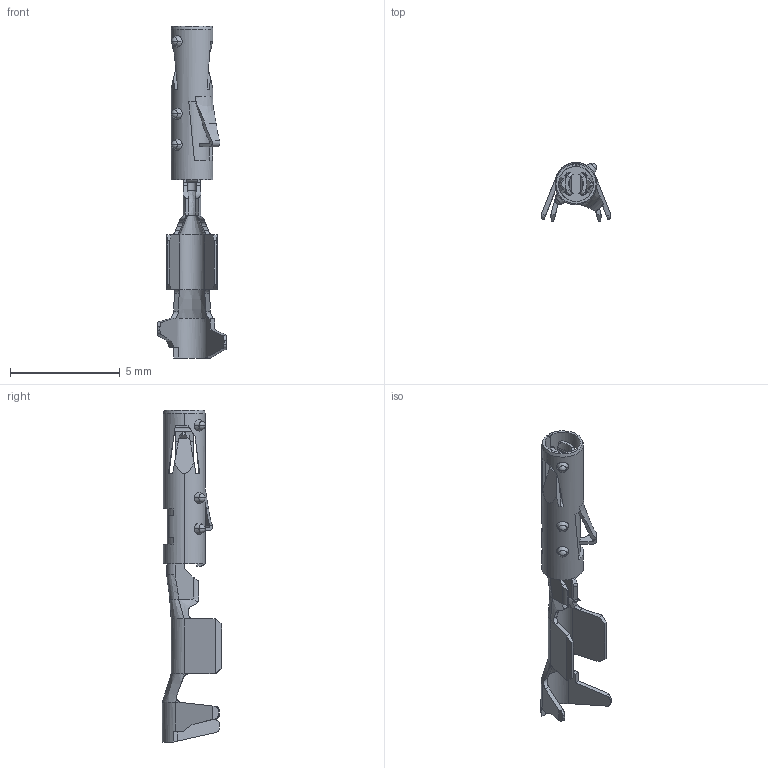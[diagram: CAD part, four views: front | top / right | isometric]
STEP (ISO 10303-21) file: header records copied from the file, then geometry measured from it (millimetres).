
FILE_DESCRIPTION((''),'2;1');
FILE_NAME('643221359','2014-06-03T',('me'),(''),'PRO/ENGINEER BY PARAMETRIC TECHNOLOGY CORPORATION, 2011490','PRO/ENGINEER BY PARAMETRIC TECHNOLOGY CORPORATION, 2011490','');
FILE_SCHEMA(('CONFIG_CONTROL_DESIGN'));
Length unit declared in the file: millimetre
Products named in the file (1): 643221359
Bounding box: 3.1 x 2.7 x 15.1 mm (x, y, z)
Volume: 20.1 mm3; surface area: 138.8 mm2
Topology: 1 solids, 1 shells, 256 faces, 728 edges, 465 vertices
Faces by surface type: plane 131, cylinder 54, bspline 45, cone 13, sphere 12, torus 1
Entity records: 10108 total; most frequent: CARTESIAN_POINT 3821, ORIENTED_EDGE 1432, DIRECTION 1112, EDGE_CURVE 716, VERTEX_POINT 465, VECTOR 408, LINE 408, AXIS2_PLACEMENT_3D 352
